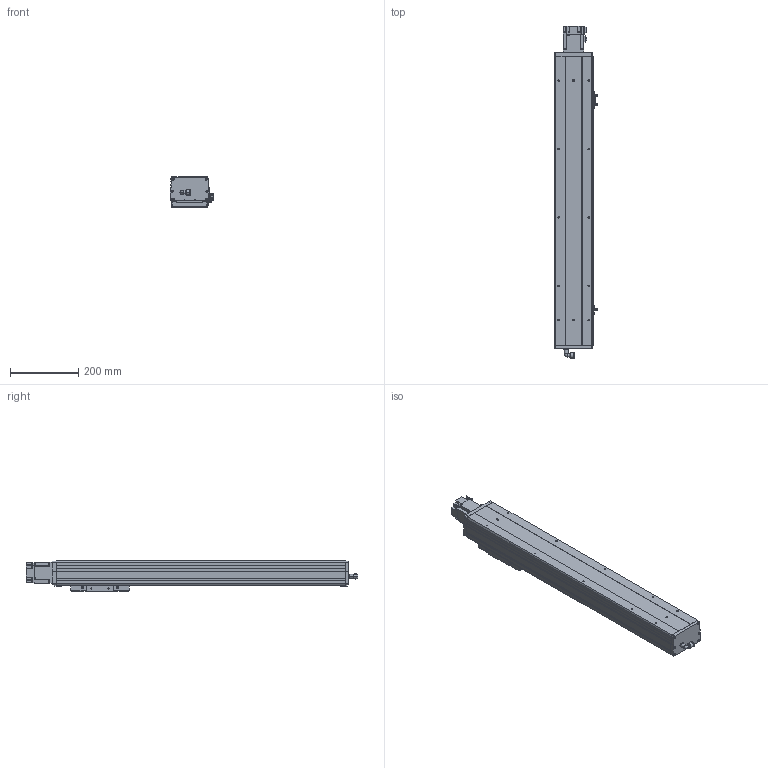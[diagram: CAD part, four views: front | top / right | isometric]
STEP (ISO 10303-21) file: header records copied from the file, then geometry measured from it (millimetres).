
FILE_DESCRIPTION (( 'STEP AP203' ), '1' );
FILE_NAME ('12.STEP', '2021-01-06T03:15:00', ( '' ), ( '' ), 'SwSTEP 2.0', 'SolidWorks 2016', '' );
FILE_SCHEMA (( 'CONFIG_CONTROL_DESIGN' ));
Length unit declared in the file: millimetre
Products named in the file (9): BCH11-BC-10; BCH11-BC-01; BCH11-BC-02; BCH11-BC-M20; BCH11-BC-04; BCH11-BC-菁釱; 12; BCH11-BC-HZ-01; BCH11-BC-03
Assembly tree (11 placements, depth 2):
  12
    BCH11-BC-菁釱
    BCH11-BC-01
    BCH11-BC-02  x2
    BCH11-BC-03
    BCH11-BC-04  x3
    BCH11-BC-HZ-01
    BCH11-BC-M20
    BCH11-BC-10
Bounding box: 127.7 x 970.53 x 90 mm (x, y, z)
Volume: 2585472.6 mm3; surface area: 796616.9 mm2
Topology: 19 solids, 19 shells, 1243 faces, 3153 edges, 2002 vertices
Faces by surface type: plane 787, cylinder 348, cone 84, sphere 12, bspline 10, torus 2
Entity records: 30370 total; most frequent: CARTESIAN_POINT 5390, DIRECTION 5065, ORIENTED_EDGE 4830, EDGE_CURVE 2415, AXIS2_PLACEMENT_3D 1691, LINE 1683, VECTOR 1683, VERTEX_POINT 1550
